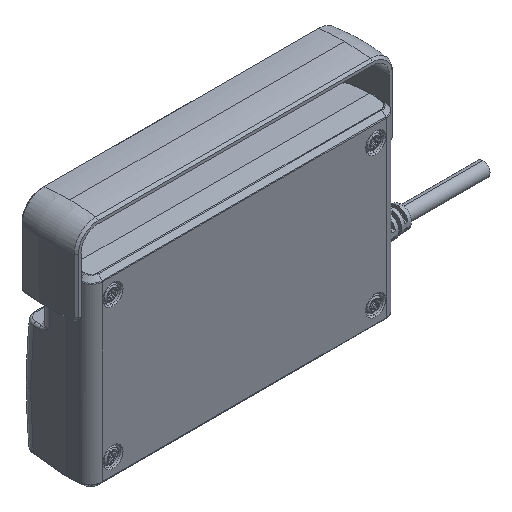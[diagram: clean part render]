
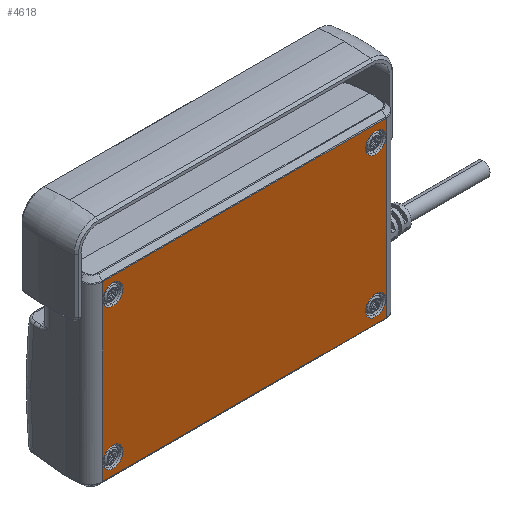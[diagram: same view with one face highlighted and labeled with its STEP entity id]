
A CAD part, isometric view. The second image highlights one B-rep face of the part: STEP entity #4618.
In plain terms, the highlighted planar face has unit normal (0, -1, 0).
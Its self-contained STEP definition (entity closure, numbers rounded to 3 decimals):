
#1408 = AXIS2_PLACEMENT_3D ( 'NONE', #62845, #16430, #20323 ) ;
#1480 = AXIS2_PLACEMENT_3D ( 'NONE', #47659, #65232, #66016 ) ;
#2275 = CIRCLE ( 'NONE', #46506, 4.3 ) ;
#2290 = DIRECTION ( 'NONE',  ( 0., 0., -1. ) ) ;
#2295 = AXIS2_PLACEMENT_3D ( 'NONE', #28991, #23243, #33436 ) ;
#4134 = DIRECTION ( 'NONE',  ( 0., 0., -1. ) ) ;
#4146 = CARTESIAN_POINT ( 'NONE',  ( 0., -10., -36.868 ) ) ;
#4500 = EDGE_CURVE ( 'NONE', #23046, #53604, #10350, .T. ) ;
#4618 = ADVANCED_FACE ( 'NONE', ( #28105, #35620, #75987, #34741, #18728 ), #64209, .T. ) ;
#5553 = VECTOR ( 'NONE', #57951, 1000. ) ;
#6221 = VERTEX_POINT ( 'NONE', #7606 ) ;
#6298 = CARTESIAN_POINT ( 'NONE',  ( 56., -10., -34.3 ) ) ;
#7061 = DIRECTION ( 'NONE',  ( 0., 1., 0. ) ) ;
#7226 = CIRCLE ( 'NONE', #2295, 4.3 ) ;
#7606 = CARTESIAN_POINT ( 'NONE',  ( -56., -10., 34.3 ) ) ;
#8917 = EDGE_LOOP ( 'NONE', ( #74405, #73177 ) ) ;
#9851 = LINE ( 'NONE', #27607, #26715 ) ;
#10175 = DIRECTION ( 'NONE',  ( 0., -1., 0. ) ) ;
#10350 = LINE ( 'NONE', #44007, #54455 ) ;
#11644 = ORIENTED_EDGE ( 'NONE', *, *, #17768, .T. ) ;
#11787 = VERTEX_POINT ( 'NONE', #44863 ) ;
#11938 = EDGE_CURVE ( 'NONE', #14978, #18398, #12400, .T. ) ;
#12400 = LINE ( 'NONE', #69273, #34059 ) ;
#13079 = ORIENTED_EDGE ( 'NONE', *, *, #77936, .T. ) ;
#13331 = VERTEX_POINT ( 'NONE', #51977 ) ;
#13831 = CIRCLE ( 'NONE', #59811, 4.3 ) ;
#13833 = CARTESIAN_POINT ( 'NONE',  ( 60.431, -10., -36.868 ) ) ;
#14978 = VERTEX_POINT ( 'NONE', #13833 ) ;
#15640 = EDGE_CURVE ( 'NONE', #56017, #57040, #7226, .T. ) ;
#15835 = ORIENTED_EDGE ( 'NONE', *, *, #24860, .T. ) ;
#16430 = DIRECTION ( 'NONE',  ( 0., 1., 0. ) ) ;
#16727 = DIRECTION ( 'NONE',  ( 0., 0., -1. ) ) ;
#17343 = EDGE_LOOP ( 'NONE', ( #63237, #15835, #21439, #46746 ) ) ;
#17556 = DIRECTION ( 'NONE',  ( 0., 0., 1. ) ) ;
#17768 = EDGE_CURVE ( 'NONE', #57040, #56017, #55739, .T. ) ;
#18398 = VERTEX_POINT ( 'NONE', #76694 ) ;
#18728 = FACE_OUTER_BOUND ( 'NONE', #17343, .T. ) ;
#19293 = EDGE_CURVE ( 'NONE', #21426, #22789, #24918, .T. ) ;
#20323 = DIRECTION ( 'NONE',  ( 0., 0., -1. ) ) ;
#20787 = CIRCLE ( 'NONE', #44040, 4.3 ) ;
#21426 = VERTEX_POINT ( 'NONE', #57882 ) ;
#21439 = ORIENTED_EDGE ( 'NONE', *, *, #11938, .T. ) ;
#22689 = CARTESIAN_POINT ( 'NONE',  ( -56., -10., 30. ) ) ;
#22789 = VERTEX_POINT ( 'NONE', #40298 ) ;
#22906 = CARTESIAN_POINT ( 'NONE',  ( 56., -10., 34.3 ) ) ;
#23046 = VERTEX_POINT ( 'NONE', #70992 ) ;
#23243 = DIRECTION ( 'NONE',  ( 0., 1., 0. ) ) ;
#24689 = ORIENTED_EDGE ( 'NONE', *, *, #19293, .T. ) ;
#24860 = EDGE_CURVE ( 'NONE', #53604, #14978, #41250, .T. ) ;
#24918 = CIRCLE ( 'NONE', #32193, 4.3 ) ;
#25629 = CARTESIAN_POINT ( 'NONE',  ( 56., -10., 25.7 ) ) ;
#26715 = VECTOR ( 'NONE', #62752, 1000. ) ;
#27607 = CARTESIAN_POINT ( 'NONE',  ( 0., -10., 36.868 ) ) ;
#27670 = EDGE_CURVE ( 'NONE', #11787, #6221, #55701, .T. ) ;
#28105 = FACE_BOUND ( 'NONE', #70973, .T. ) ;
#28991 = CARTESIAN_POINT ( 'NONE',  ( 56., -10., 30. ) ) ;
#32193 = AXIS2_PLACEMENT_3D ( 'NONE', #63435, #63691, #4134 ) ;
#33436 = DIRECTION ( 'NONE',  ( 0., 0., -1. ) ) ;
#34059 = VECTOR ( 'NONE', #17556, 1000. ) ;
#34741 = FACE_BOUND ( 'NONE', #8917, .T. ) ;
#35620 = FACE_BOUND ( 'NONE', #58913, .T. ) ;
#40298 = CARTESIAN_POINT ( 'NONE',  ( -56., -10., -25.7 ) ) ;
#41250 = LINE ( 'NONE', #4146, #5553 ) ;
#42515 = ORIENTED_EDGE ( 'NONE', *, *, #46009, .T. ) ;
#43649 = DIRECTION ( 'NONE',  ( 0., 1., 0. ) ) ;
#44007 = CARTESIAN_POINT ( 'NONE',  ( -60.431, -10., -38.976 ) ) ;
#44040 = AXIS2_PLACEMENT_3D ( 'NONE', #53858, #7061, #60866 ) ;
#44610 = CIRCLE ( 'NONE', #1408, 4.3 ) ;
#44863 = CARTESIAN_POINT ( 'NONE',  ( -56., -10., 25.7 ) ) ;
#46009 = EDGE_CURVE ( 'NONE', #22789, #21426, #44610, .T. ) ;
#46506 = AXIS2_PLACEMENT_3D ( 'NONE', #63775, #64540, #51482 ) ;
#46746 = ORIENTED_EDGE ( 'NONE', *, *, #62800, .T. ) ;
#46812 = DIRECTION ( 'NONE',  ( 0., 0., -1. ) ) ;
#47659 = CARTESIAN_POINT ( 'NONE',  ( 56., -10., 30. ) ) ;
#51482 = DIRECTION ( 'NONE',  ( 0., 0., -1. ) ) ;
#51694 = EDGE_CURVE ( 'NONE', #13331, #76159, #2275, .T. ) ;
#51977 = CARTESIAN_POINT ( 'NONE',  ( 56., -10., -25.7 ) ) ;
#53143 = DIRECTION ( 'NONE',  ( 0., 1., 0. ) ) ;
#53604 = VERTEX_POINT ( 'NONE', #63808 ) ;
#53858 = CARTESIAN_POINT ( 'NONE',  ( 56., -10., -30. ) ) ;
#54455 = VECTOR ( 'NONE', #2290, 1000. ) ;
#55701 = CIRCLE ( 'NONE', #55783, 4.3 ) ;
#55739 = CIRCLE ( 'NONE', #1480, 4.3 ) ;
#55783 = AXIS2_PLACEMENT_3D ( 'NONE', #22689, #53143, #46812 ) ;
#56017 = VERTEX_POINT ( 'NONE', #25629 ) ;
#57040 = VERTEX_POINT ( 'NONE', #22906 ) ;
#57882 = CARTESIAN_POINT ( 'NONE',  ( -56., -10., -34.3 ) ) ;
#57951 = DIRECTION ( 'NONE',  ( 1., 0., 0. ) ) ;
#58730 = CARTESIAN_POINT ( 'NONE',  ( 0., -10., 0. ) ) ;
#58913 = EDGE_LOOP ( 'NONE', ( #72766, #13079 ) ) ;
#59666 = AXIS2_PLACEMENT_3D ( 'NONE', #58730, #10175, #16727 ) ;
#59811 = AXIS2_PLACEMENT_3D ( 'NONE', #62523, #43649, #73807 ) ;
#60866 = DIRECTION ( 'NONE',  ( 0., 0., -1. ) ) ;
#62523 = CARTESIAN_POINT ( 'NONE',  ( -56., -10., 30. ) ) ;
#62752 = DIRECTION ( 'NONE',  ( -1., 0., 0. ) ) ;
#62800 = EDGE_CURVE ( 'NONE', #18398, #23046, #9851, .T. ) ;
#62845 = CARTESIAN_POINT ( 'NONE',  ( -56., -10., -30. ) ) ;
#63237 = ORIENTED_EDGE ( 'NONE', *, *, #4500, .T. ) ;
#63435 = CARTESIAN_POINT ( 'NONE',  ( -56., -10., -30. ) ) ;
#63691 = DIRECTION ( 'NONE',  ( 0., 1., 0. ) ) ;
#63775 = CARTESIAN_POINT ( 'NONE',  ( 56., -10., -30. ) ) ;
#63808 = CARTESIAN_POINT ( 'NONE',  ( -60.431, -10., -36.868 ) ) ;
#64209 = PLANE ( 'NONE',  #59666 ) ;
#64540 = DIRECTION ( 'NONE',  ( 0., 1., 0. ) ) ;
#65232 = DIRECTION ( 'NONE',  ( 0., 1., 0. ) ) ;
#66016 = DIRECTION ( 'NONE',  ( 0., 0., -1. ) ) ;
#67779 = ORIENTED_EDGE ( 'NONE', *, *, #15640, .T. ) ;
#69273 = CARTESIAN_POINT ( 'NONE',  ( 60.431, -10., 38.976 ) ) ;
#70973 = EDGE_LOOP ( 'NONE', ( #67779, #11644 ) ) ;
#70992 = CARTESIAN_POINT ( 'NONE',  ( -60.431, -10., 36.868 ) ) ;
#72766 = ORIENTED_EDGE ( 'NONE', *, *, #27670, .T. ) ;
#73177 = ORIENTED_EDGE ( 'NONE', *, *, #51694, .T. ) ;
#73807 = DIRECTION ( 'NONE',  ( 0., 0., -1. ) ) ;
#74405 = ORIENTED_EDGE ( 'NONE', *, *, #74932, .T. ) ;
#74932 = EDGE_CURVE ( 'NONE', #76159, #13331, #20787, .T. ) ;
#75029 = EDGE_LOOP ( 'NONE', ( #24689, #42515 ) ) ;
#75987 = FACE_BOUND ( 'NONE', #75029, .T. ) ;
#76159 = VERTEX_POINT ( 'NONE', #6298 ) ;
#76694 = CARTESIAN_POINT ( 'NONE',  ( 60.431, -10., 36.868 ) ) ;
#77936 = EDGE_CURVE ( 'NONE', #6221, #11787, #13831, .T. ) ;
